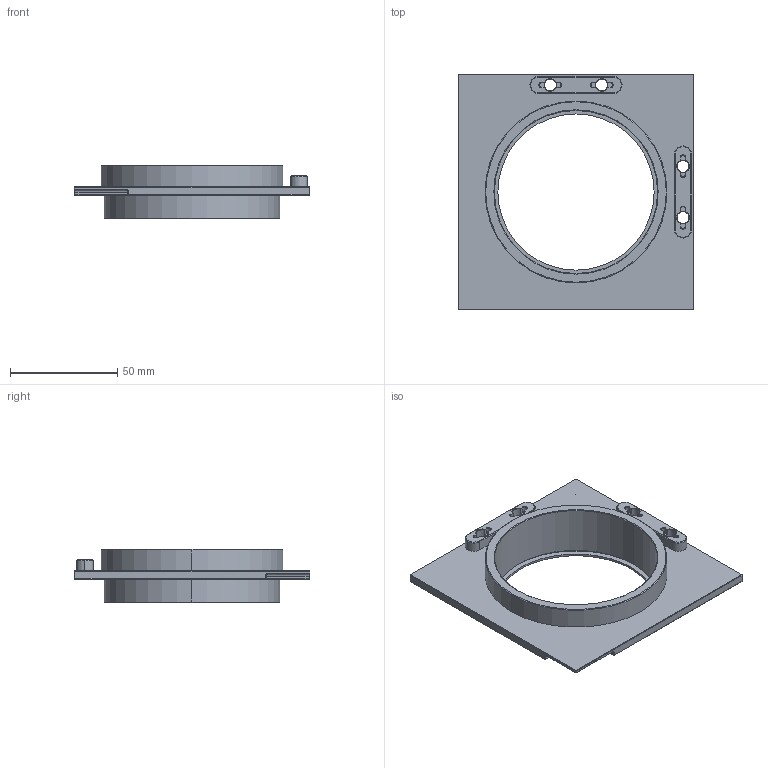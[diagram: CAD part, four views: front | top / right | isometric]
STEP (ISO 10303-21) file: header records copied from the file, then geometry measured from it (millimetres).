
FILE_DESCRIPTION (( 'STEP AP203' ), '1' );
FILE_NAME ('三英寸动板.STEP', '2026-10-10T03:44:15', ( '' ), ( '' ), 'SwSTEP 2.0', 'SolidWorks 2024', '' );
FILE_SCHEMA (( 'CONFIG_CONTROL_DESIGN' ));
Length unit declared in the file: millimetre
Products named in the file (1): 三英寸动板
Bounding box: 110 x 110 x 25 mm (x, y, z)
Volume: 50064.6 mm3; surface area: 30787.1 mm2
Topology: 1 solids, 1 shells, 190 faces, 457 edges, 276 vertices
Faces by surface type: plane 104, cone 43, cylinder 43
Entity records: 5547 total; most frequent: CARTESIAN_POINT 997, DIRECTION 955, ORIENTED_EDGE 910, EDGE_CURVE 455, AXIS2_PLACEMENT_3D 334, LINE 287, VECTOR 287, VERTEX_POINT 276
